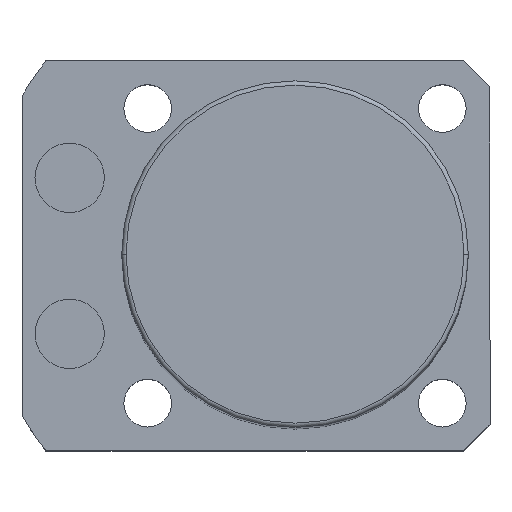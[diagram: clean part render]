
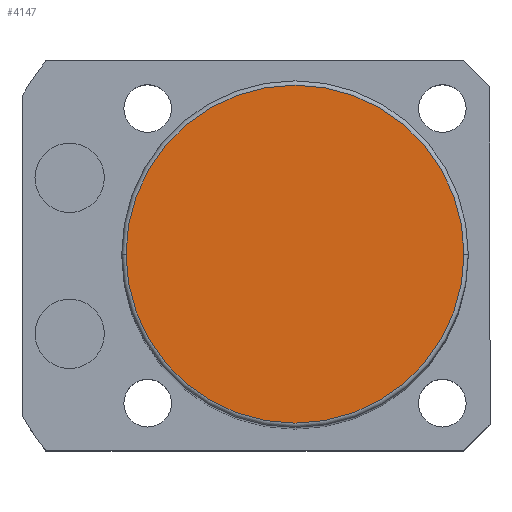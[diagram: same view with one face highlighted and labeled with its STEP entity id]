
A CAD part, top view. The second image highlights one B-rep face of the part: STEP entity #4147.
In plain terms, the highlighted planar face has unit normal (0, 0, 1).
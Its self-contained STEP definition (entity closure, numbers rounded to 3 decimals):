
#219 = AXIS2_PLACEMENT_3D ( 'NONE', #5140, #2428, #2815 ) ;
#885 = AXIS2_PLACEMENT_3D ( 'NONE', #2502, #1135, #5163 ) ;
#1135 = DIRECTION ( 'NONE',  ( 0., 0., 1. ) ) ;
#1190 = CIRCLE ( 'NONE', #219, 19.5 ) ;
#1582 = ORIENTED_EDGE ( 'NONE', *, *, #3987, .T. ) ;
#1712 = EDGE_CURVE ( 'NONE', #4032, #4284, #3381, .T. ) ;
#2341 = CARTESIAN_POINT ( 'NONE',  ( 0., 0., 123.5 ) ) ;
#2428 = DIRECTION ( 'NONE',  ( 0., 0., 1. ) ) ;
#2502 = CARTESIAN_POINT ( 'NONE',  ( 0., 0., 123.5 ) ) ;
#2784 = FACE_OUTER_BOUND ( 'NONE', #5152, .T. ) ;
#2815 = DIRECTION ( 'NONE',  ( 1., 0., 0. ) ) ;
#3381 = CIRCLE ( 'NONE', #4134, 19.5 ) ;
#3729 = DIRECTION ( 'NONE',  ( 0., 0., 1. ) ) ;
#3848 = PLANE ( 'NONE',  #885 ) ;
#3987 = EDGE_CURVE ( 'NONE', #4284, #4032, #1190, .T. ) ;
#4032 = VERTEX_POINT ( 'NONE', #4682 ) ;
#4134 = AXIS2_PLACEMENT_3D ( 'NONE', #2341, #3729, #4484 ) ;
#4147 = ADVANCED_FACE ( 'NONE', ( #2784 ), #3848, .T. ) ;
#4284 = VERTEX_POINT ( 'NONE', #5739 ) ;
#4484 = DIRECTION ( 'NONE',  ( 1., 0., 0. ) ) ;
#4682 = CARTESIAN_POINT ( 'NONE',  ( -19.5, 0., 123.5 ) ) ;
#4928 = ORIENTED_EDGE ( 'NONE', *, *, #1712, .T. ) ;
#5140 = CARTESIAN_POINT ( 'NONE',  ( 0., 0., 123.5 ) ) ;
#5152 = EDGE_LOOP ( 'NONE', ( #1582, #4928 ) ) ;
#5163 = DIRECTION ( 'NONE',  ( 1., 0., 0. ) ) ;
#5739 = CARTESIAN_POINT ( 'NONE',  ( 19.5, 0., 123.5 ) ) ;
